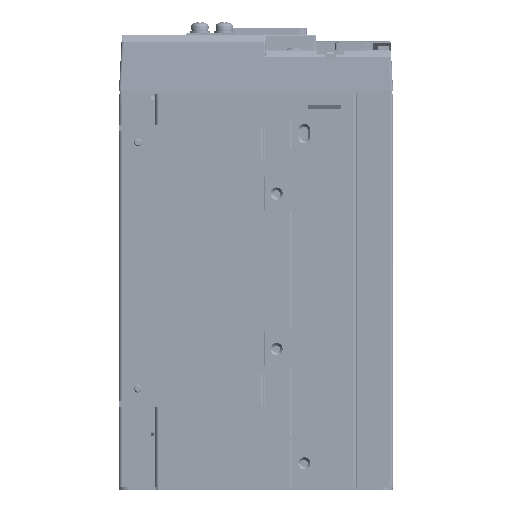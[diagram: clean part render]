
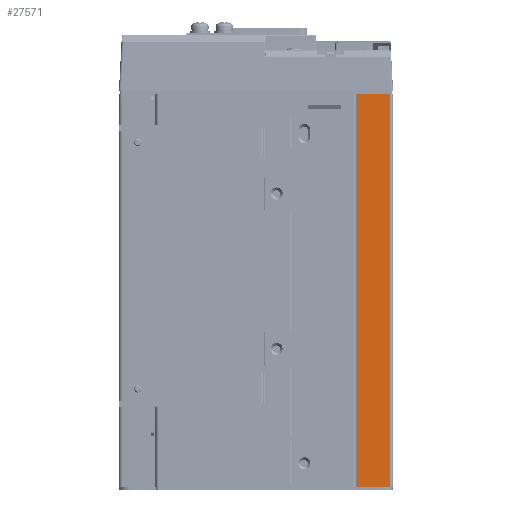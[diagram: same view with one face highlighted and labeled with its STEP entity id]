
A CAD part, left-side view. The second image highlights one B-rep face of the part: STEP entity #27571.
In plain terms, the highlighted planar face has unit normal (-1, 0, 0).
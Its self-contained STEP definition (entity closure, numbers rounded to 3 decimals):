
#11988=CARTESIAN_POINT('',(-462.875,669.252,607.907));
#11989=VERTEX_POINT('',#11988);
#11997=CARTESIAN_POINT('',(-462.875,655.696,607.907));
#11998=VERTEX_POINT('',#11997);
#11999=CARTESIAN_POINT('',(-462.875,655.696,607.907));
#12000=DIRECTION('',(0.0,1.0,0.0));
#12001=VECTOR('',#12000,13.556);
#12002=LINE('',#11999,#12001);
#12003=EDGE_CURVE('',#11998,#11989,#12002,.T.);
#26643=CARTESIAN_POINT('',(-462.875,655.303,600.407));
#26644=VERTEX_POINT('',#26643);
#26645=CARTESIAN_POINT('',(-462.875,655.696,607.907));
#26646=DIRECTION('',(0.,-0.052,-0.999));
#26647=VECTOR('',#26646,7.51);
#26648=LINE('',#26645,#26647);
#26649=EDGE_CURVE('',#11998,#26644,#26648,.T.);
#27524=CARTESIAN_POINT('',(-462.875,652.852,421.907));
#27525=DIRECTION('',(-1.0,0.0,0.0));
#27526=DIRECTION('',(0.0,0.0,-1.0));
#27527=AXIS2_PLACEMENT_3D('',#27524,#27525,#27526);
#27528=PLANE('',#27527);
#27529=CARTESIAN_POINT('',(-462.875,654.852,423.407));
#27530=VERTEX_POINT('',#27529);
#27531=CARTESIAN_POINT('',(-462.875,654.452,423.407));
#27532=VERTEX_POINT('',#27531);
#27533=CARTESIAN_POINT('',(-462.875,654.852,423.407));
#27534=DIRECTION('',(0.0,-1.0,0.0));
#27535=VECTOR('',#27534,0.4);
#27536=LINE('',#27533,#27535);
#27537=EDGE_CURVE('',#27530,#27532,#27536,.T.);
#27538=ORIENTED_EDGE('',*,*,#27537,.T.);
#27539=CARTESIAN_POINT('',(-462.875,654.452,600.407));
#27540=VERTEX_POINT('',#27539);
#27541=CARTESIAN_POINT('',(-462.875,654.452,600.407));
#27542=DIRECTION('',(0.0,0.0,-1.0));
#27543=VECTOR('',#27542,177.);
#27544=LINE('',#27541,#27543);
#27545=EDGE_CURVE('',#27540,#27532,#27544,.T.);
#27546=ORIENTED_EDGE('',*,*,#27545,.F.);
#27547=CARTESIAN_POINT('',(-462.875,655.303,600.407));
#27548=DIRECTION('',(0.,-1.0,0.));
#27549=VECTOR('',#27548,0.851);
#27550=LINE('',#27547,#27549);
#27551=EDGE_CURVE('',#26644,#27540,#27550,.T.);
#27552=ORIENTED_EDGE('',*,*,#27551,.F.);
#27553=ORIENTED_EDGE('',*,*,#26649,.F.);
#27554=ORIENTED_EDGE('',*,*,#12003,.T.);
#27555=CARTESIAN_POINT('',(-462.875,669.252,423.407));
#27556=VERTEX_POINT('',#27555);
#27557=CARTESIAN_POINT('',(-462.875,669.252,607.907));
#27558=DIRECTION('',(0.0,0.0,-1.0));
#27559=VECTOR('',#27558,184.5);
#27560=LINE('',#27557,#27559);
#27561=EDGE_CURVE('',#11989,#27556,#27560,.T.);
#27562=ORIENTED_EDGE('',*,*,#27561,.T.);
#27563=CARTESIAN_POINT('',(-462.875,654.852,423.407));
#27564=DIRECTION('',(0.0,1.0,0.0));
#27565=VECTOR('',#27564,14.4);
#27566=LINE('',#27563,#27565);
#27567=EDGE_CURVE('',#27530,#27556,#27566,.T.);
#27568=ORIENTED_EDGE('',*,*,#27567,.F.);
#27569=EDGE_LOOP('',(#27538,#27546,#27552,#27553,#27554,#27562,#27568));
#27570=FACE_OUTER_BOUND('',#27569,.T.);
#27571=ADVANCED_FACE('',(#27570),#27528,.T.);
